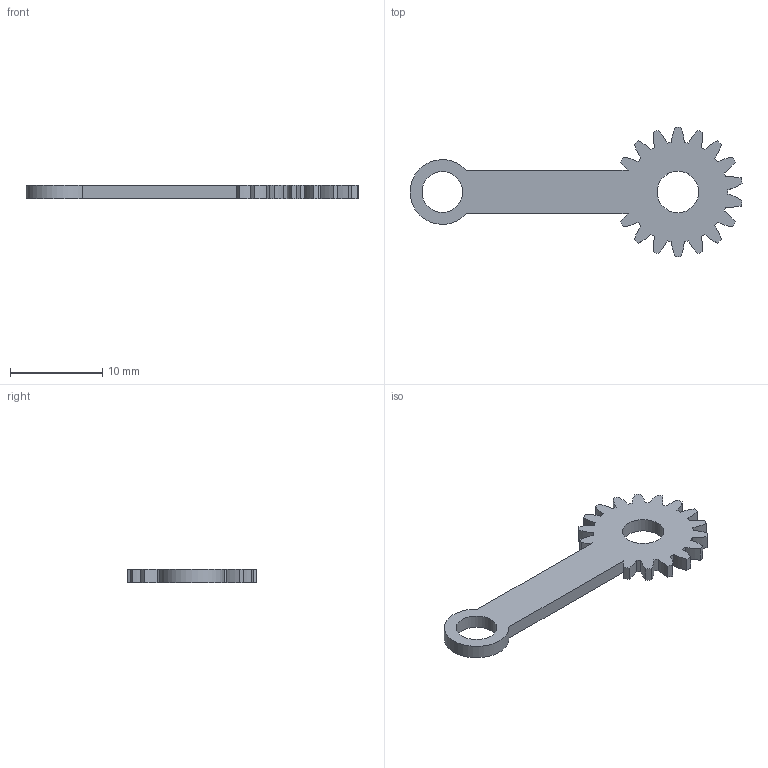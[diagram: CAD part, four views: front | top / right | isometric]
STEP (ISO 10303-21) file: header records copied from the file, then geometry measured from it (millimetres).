
FILE_DESCRIPTION(/* description */ (''),/* implementation_level */ '2;1');
FILE_NAME(/* name */ '3B.stp',/* time_stamp */ '2026-08-07T11:17:29+08:00',/* author */ (''),/* organization */ (''),/* preprocessor_version */ 'ST-DEVELOPER v16.7',/* originating_system */ 'SIEMENS PLM Software NX 12.0',/* authorisation */ '');
FILE_SCHEMA (('AUTOMOTIVE_DESIGN { 1 0 10303 214 3 1 1 1 }'));
Length unit declared in the file: millimetre
Products named in the file (1): 3B
Bounding box: 35.94 x 14 x 1.5 mm (x, y, z)
Volume: 312.6 mm3; surface area: 640.6 mm2
Topology: 1 solids, 1 shells, 70 faces, 204 edges, 136 vertices
Faces by surface type: cylinder 66, plane 4
Full cylindrical faces by diameter (mm): 4.4 x1, 4.5 x1
Entity records: 2432 total; most frequent: DIRECTION 478, CARTESIAN_POINT 411, ORIENTED_EDGE 408, EDGE_CURVE 204, AXIS2_PLACEMENT_3D 203, VERTEX_POINT 136, CIRCLE 132, EDGE_LOOP 74
